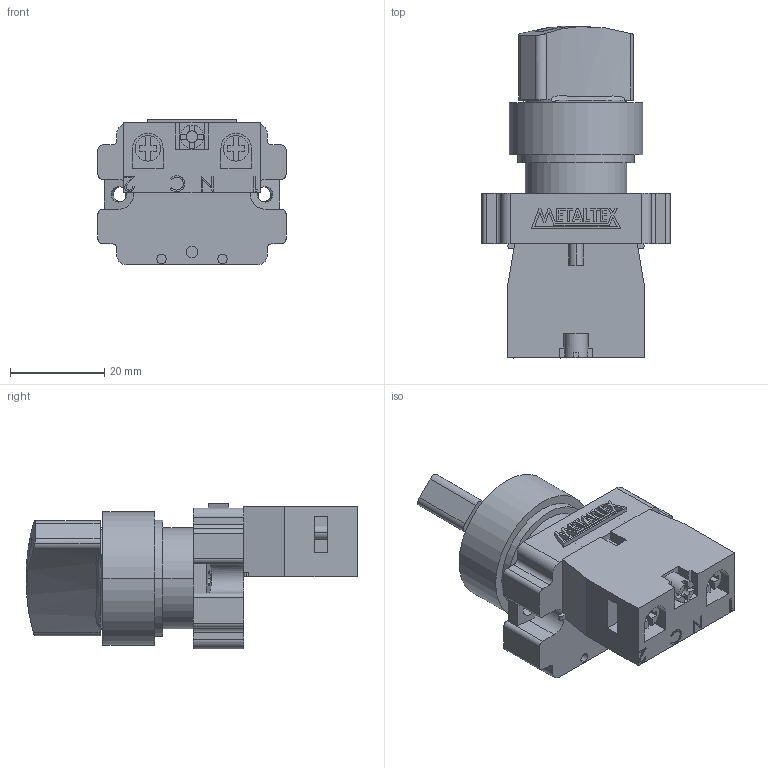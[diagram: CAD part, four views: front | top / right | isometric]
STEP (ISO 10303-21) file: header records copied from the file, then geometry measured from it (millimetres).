
FILE_DESCRIPTION (( 'STEP AP203' ), '1' );
FILE_NAME ('M20SCR2-B-1A.STEP', '2018-01-17T13:45:51', ( '' ), ( '' ), 'SwSTEP 2.0', 'SolidWorks 2012', '' );
FILE_SCHEMA (( 'CONFIG_CONTROL_DESIGN' ));
Length unit declared in the file: millimetre
Products named in the file (4): M20-1B; M20SCR2; METALTEX 18,98; M20SCR2-B-1A
Assembly tree (3 placements, depth 2):
  M20SCR2-B-1A
    M20SCR2
    M20-1B
    METALTEX 18,98
Bounding box: 40 x 70.6 x 30.9 mm (x, y, z)
Volume: 33657.6 mm3; surface area: 12302.8 mm2
Topology: 9 solids, 9 shells, 365 faces, 958 edges, 637 vertices
Faces by surface type: plane 259, cylinder 78, bspline 24, torus 4
Entity records: 13604 total; most frequent: CARTESIAN_POINT 4192, ORIENTED_EDGE 1916, DIRECTION 1768, EDGE_CURVE 958, LINE 704, VECTOR 704, VERTEX_POINT 637, AXIS2_PLACEMENT_3D 532
